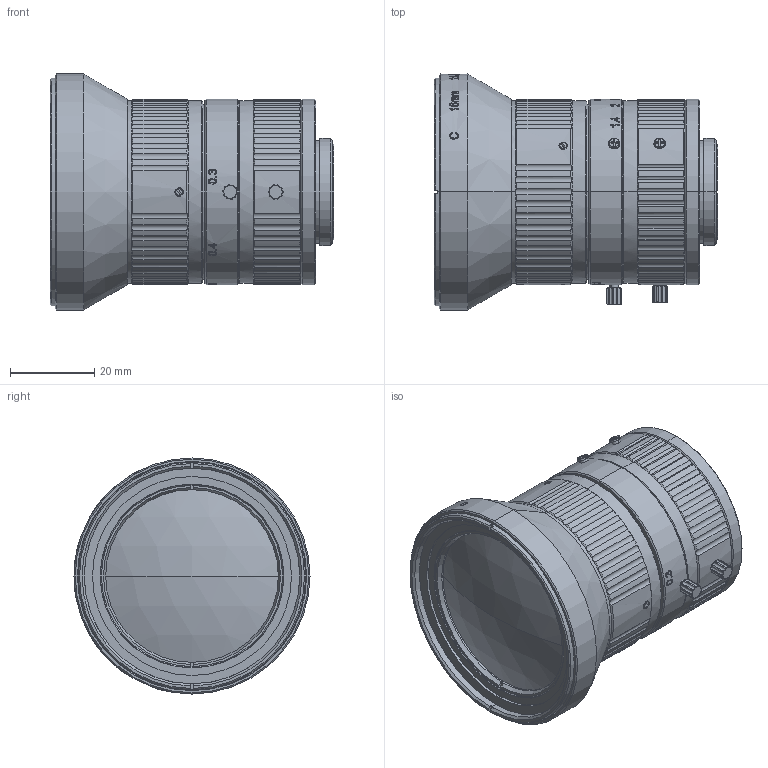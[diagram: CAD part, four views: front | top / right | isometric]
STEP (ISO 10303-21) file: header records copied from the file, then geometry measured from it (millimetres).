
FILE_DESCRIPTION (( 'STEP AP214' ), '1' );
FILE_NAME ('1614IR.STEP', '2023-04-26T02:17:17', ( 'MM' ), ( 'Microsoft' ), 'SwSTEP 2.0', 'SolidWorks 2019', '' );
FILE_SCHEMA (( 'AUTOMOTIVE_DESIGN' ));
Length unit declared in the file: millimetre
Products named in the file (8): M2-6苤芛幗豪芛蹟隊; M1.6X3坋趼芛蹟隊21.09.24; M2-2坋趼芛蹟隊; M2-6坋趼芛蹟隊; M2-2苤芛幗豪芛蹟隊; M2-2.5踡隅蹟隊; 1614IR; 1614IR-21.12.03
Assembly tree (13 placements, depth 2):
  1614IR
    1614IR-21.12.03
    M1.6X3坋趼芛蹟隊21.09.24  x3
    M2-2.5踡隅蹟隊  x3
    M2-2坋趼芛蹟隊  x2
    M2-6苤芛幗豪芛蹟隊
    M2-6坋趼芛蹟隊  x2
    M2-2苤芛幗豪芛蹟隊
Bounding box: 67.34 x 56 x 56 mm (x, y, z)
Volume: 53570.5 mm3; surface area: 48428.2 mm2
Topology: 22 solids, 22 shells, 1674 faces, 4241 edges, 2721 vertices
Faces by surface type: cylinder 493, plane 472, bspline 360, cone 325, sphere 16, torus 8
Entity records: 82676 total; most frequent: CARTESIAN_POINT 47479, ORIENTED_EDGE 7914, DIRECTION 5943, EDGE_CURVE 3957, VERTEX_POINT 2543, AXIS2_PLACEMENT_3D 2411, EDGE_LOOP 1712, B_SPLINE_CURVE_WITH_KNOTS 1637
